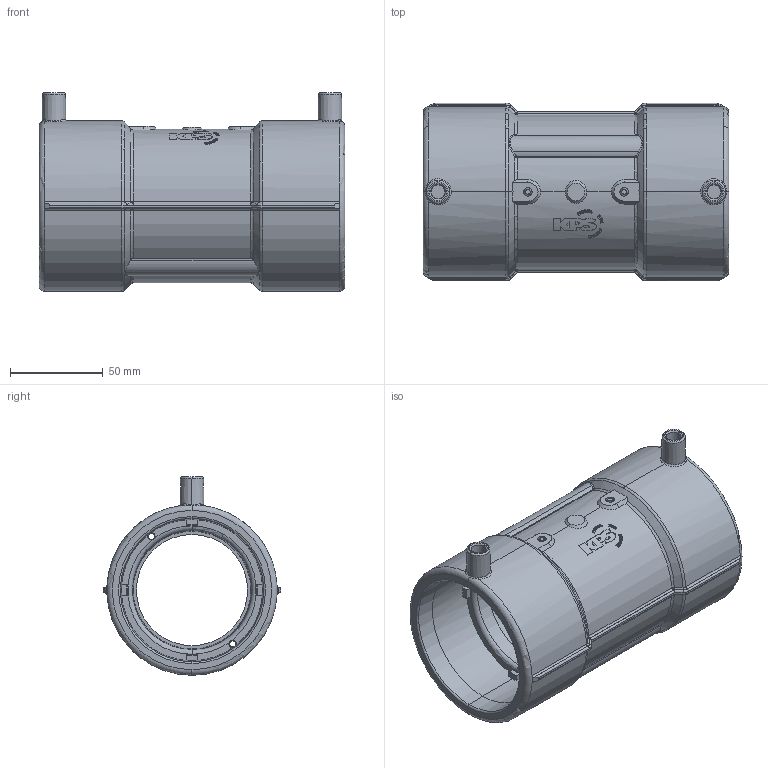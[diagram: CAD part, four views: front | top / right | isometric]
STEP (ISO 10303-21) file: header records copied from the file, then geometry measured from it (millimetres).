
FILE_DESCRIPTION (( 'STEP AP203' ), '1' );
FILE_NAME ('KP_2-75-63SC.step', '2011-08-08T12:06:44', ( '' ), ( '' ), 'SwSTEP 2.0', 'SolidWorks 2011', '' );
FILE_SCHEMA (( 'CONFIG_CONTROL_DESIGN' ));
Length unit declared in the file: millimetre
Products named in the file (1): KP_2-75-63SC
Bounding box: 165 x 96 x 107.22 mm (x, y, z)
Volume: 389044.5 mm3; surface area: 94197.3 mm2
Topology: 1 solids, 2 shells, 635 faces, 1642 edges, 1024 vertices
Faces by surface type: plane 238, cylinder 162, bspline 139, torus 44, cone 32, sphere 20
Entity records: 24739 total; most frequent: CARTESIAN_POINT 11129, ORIENTED_EDGE 3244, DIRECTION 2336, EDGE_CURVE 1622, VERTEX_POINT 1024, AXIS2_PLACEMENT_3D 903, EDGE_LOOP 674, FACE_OUTER_BOUND 635
